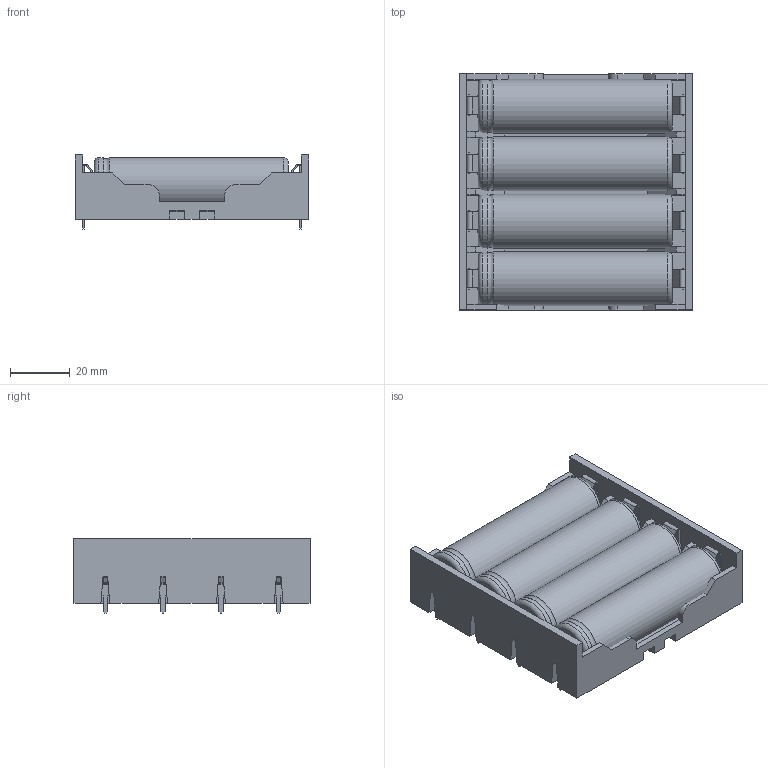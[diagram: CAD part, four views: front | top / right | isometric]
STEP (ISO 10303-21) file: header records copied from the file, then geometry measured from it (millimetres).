
FILE_DESCRIPTION(('FreeCAD Model'),'2;1');
FILE_NAME('Open CASCADE Shape Model','2022-11-10T08:50:56',(''),(''), 'Open CASCADE STEP processor 7.6','FreeCAD','Unknown');
FILE_SCHEMA(('CONFIG_CONTROL_DESIGN','SHAPE_APPEARANCE_LAYER_MIM'));
Length unit declared in the file: millimetre
Products named in the file (5): 4 Battery Holder_001; 18650 Lipo Battery_001; 18650 Lipo Battery_002; 18650 Lipo Battery_003; 18650 Lipo Battery_004
Bounding box: 77.98 x 78.84 x 24.74 mm (x, y, z)
Volume: 93039.3 mm3; surface area: 64567.5 mm2
Topology: 21 solids, 21 shells, 650 faces, 1776 edges, 1172 vertices
Faces by surface type: plane 530, cylinder 104, torus 16
Full cylindrical faces by diameter (mm): 1 x8, 3.2 x8, 6 x8, 7.4 x8, 12 x12, 18 x8
Entity records: 25095 total; most frequent: CARTESIAN_POINT 3599, ORIENTED_EDGE 3552, DIRECTION 3314, EDGE_CURVE 1776, LINE 1540, VECTOR 1540, VERTEX_POINT 1172, AXIS2_PLACEMENT_3D 887
